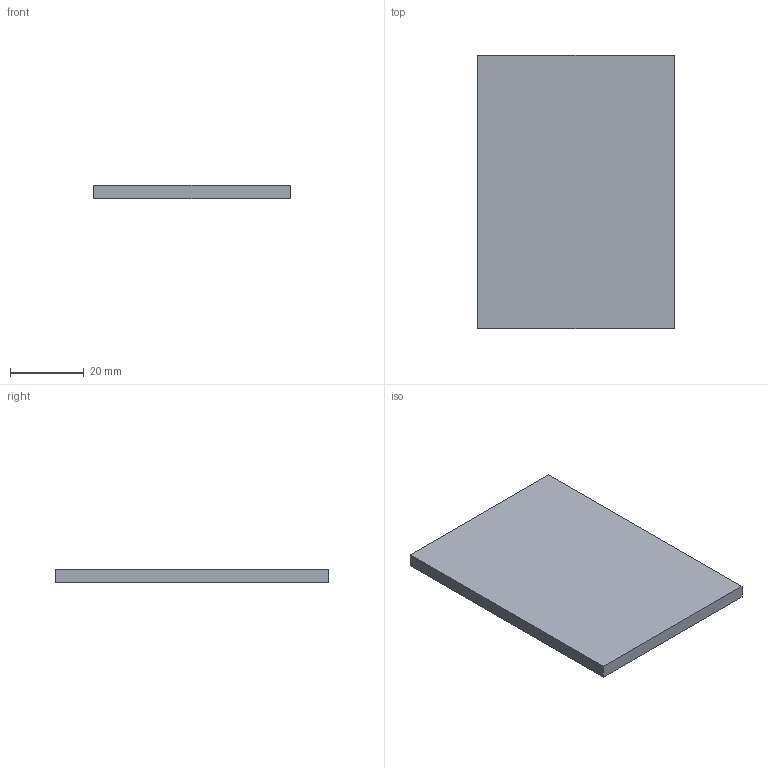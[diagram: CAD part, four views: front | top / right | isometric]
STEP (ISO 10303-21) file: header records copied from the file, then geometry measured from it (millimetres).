
FILE_DESCRIPTION((''),'2;1');
FILE_NAME('LCM-28-SLIM-TOPPOLY_PRT','2008-06-30T',('GRA'),(''),'PRO/ENGINEER BY PARAMETRIC TECHNOLOGY CORPORATION, 2006170','PRO/ENGINEER BY PARAMETRIC TECHNOLOGY CORPORATION, 2006170','');
FILE_SCHEMA(('CONFIG_CONTROL_DESIGN'));
Length unit declared in the file: millimetre
Products named in the file (1): LCM-28-SLIM-TOPPOLY_PRT
Bounding box: 53.1 x 73.9 x 3.6 mm (x, y, z)
Volume: 14126.7 mm3; surface area: 8762.6 mm2
Topology: 1 solids, 1 shells, 6 faces, 12 edges, 8 vertices
Faces by surface type: plane 6
Entity records: 194 total; most frequent: CARTESIAN_POINT 26, DIRECTION 24, ORIENTED_EDGE 24, VECTOR 12, LINE 12, EDGE_CURVE 12, VERTEX_POINT 8, AXIS2_PLACEMENT_3D 6
